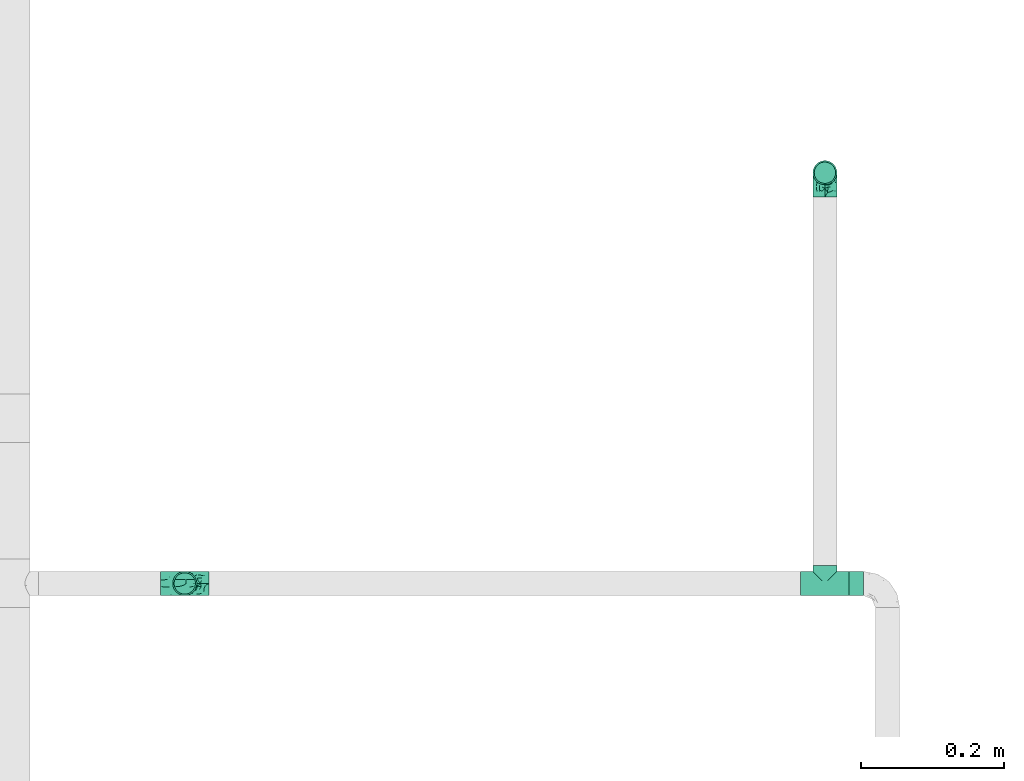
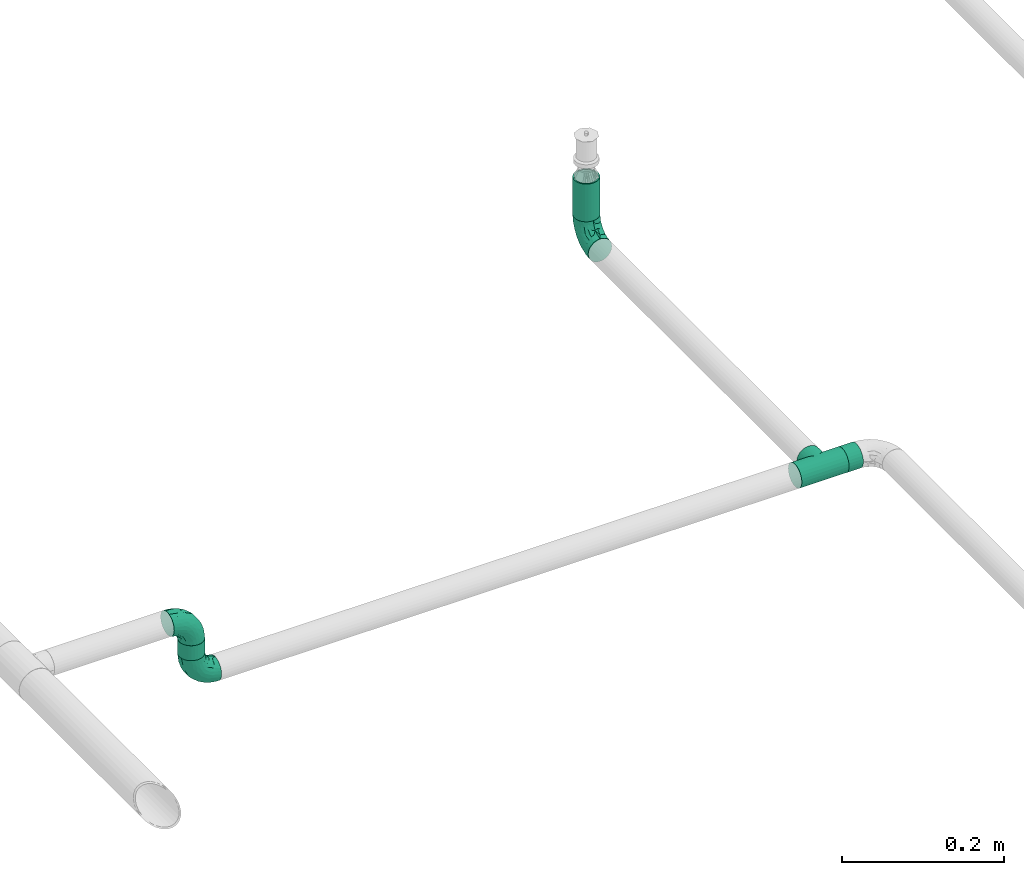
# One storey, part 124 of 157: 4 flow fittings, 3 flow segments.
"""IFC2X3 building model written with IfcOpenShell, lengths in millimetres."""

import ifcopenshell
import ifcopenshell.guid

model = None  # the IFC model being written
_history = None  # IfcOwnerHistory: only IFC2X3 demands one
_inside = {}  # id of a spatial element -> (the spatial element, [elements in it])
_under = {}  # id of a project, library or spatial element -> (it, [spatial elements below it])
_declared = {}  # id of a project -> (the project, [libraries it declares])
_typed = {}  # id of a type object -> (the type object, [elements of that type])
_made_of = {}  # id of a material, layer set ... -> (it, [elements and type objects made of it])


def new_model(schema):
    """Start an empty IFC model of exactly this schema.

    Asked for "IFC4X3", IfcOpenShell would pick the latest addendum, in which some entities
    have other attributes; the version numbers below select the first issue.
    IFC2X3 requires an IfcOwnerHistory on every rooted entity: one is made here for all.
    """
    global model, _history
    if schema == "IFC4X3":
        model = ifcopenshell.file(schema_version=(4, 3, 0, 0))
    else:
        model = ifcopenshell.file(schema=schema)
    _inside.clear()
    _under.clear()
    _declared.clear()
    _typed.clear()
    _made_of.clear()
    _history = None
    if model.schema == "IFC2X3":
        org = make("IfcOrganization", Name="unknown")
        user = make(
            "IfcPersonAndOrganization",
            ThePerson=make("IfcPerson", FamilyName="unknown"),
            TheOrganization=org,
        )
        app = make(
            "IfcApplication",
            ApplicationDeveloper=org,
            Version="unknown",
            ApplicationFullName="unknown",
            ApplicationIdentifier="unknown",
        )
        _history = make(
            "IfcOwnerHistory",
            OwningUser=user,
            OwningApplication=app,
            ChangeAction="ADDED",
            CreationDate=0,
        )
    return model


def make(cls, **values):
    """One entity of the class cls with the attributes given. An attribute that is None is left unset."""
    return model.create_entity(
        cls, **{name: value for name, value in values.items() if value is not None}
    )


def entity(cls, *values):
    """Any entity or typed value of the class cls, its attributes in the order of the schema. None: left unset."""
    e = model.create_entity(cls)
    for i, value in enumerate(values):
        if value is not None:
            e[i] = value
    return e


def rooted(cls, **values):
    """An entity with a GlobalId (a new one), such as an element, a storey or a relation."""
    return make(cls, GlobalId=ifcopenshell.guid.new(), OwnerHistory=_history, **values)


def si_unit(unit_type, name, prefix=None):
    """IfcSIUnit, for example si_unit("LENGTHUNIT", "METRE", prefix="MILLI")."""
    return make("IfcSIUnit", UnitType=unit_type, Prefix=prefix, Name=name)


def converted_unit(unit_type, name, factor, base, dimensions=None, offset=None):
    """IfcConversionBasedUnit, such as the inch: factor (a typed value) times the base unit."""
    return make(
        "IfcConversionBasedUnit"
        if offset is None
        else "IfcConversionBasedUnitWithOffset",
        ConversionOffset=offset,
        Dimensions=None
        if dimensions is None
        else entity("IfcDimensionalExponents", *dimensions),
        UnitType=unit_type,
        Name=name,
        ConversionFactor=make(
            "IfcMeasureWithUnit", ValueComponent=factor, UnitComponent=base
        ),
    )


def derived_unit(unit_type, elements):
    """IfcDerivedUnit: a product of units, each with its exponent."""
    return make(
        "IfcDerivedUnit",
        Elements=[
            make("IfcDerivedUnitElement", Unit=unit, Exponent=power)
            for unit, power in elements
        ],
        UnitType=unit_type,
    )


def assignment(units):
    """IfcUnitAssignment: the units of a project."""
    return None if units is None else make("IfcUnitAssignment", Units=units)


def point(xyz):
    """IfcCartesianPoint."""
    return None if xyz is None else make("IfcCartesianPoint", Coordinates=xyz)


def direction(xyz):
    """IfcDirection."""
    return None if xyz is None else make("IfcDirection", DirectionRatios=xyz)


def frame(location, z_axis=None, x_axis=None):
    """IfcAxis2Placement3D, a coordinate frame: its origin and axes. An axis left out is left unset."""
    return make(
        "IfcAxis2Placement3D",
        Location=point(location),
        Axis=direction(z_axis),
        RefDirection=direction(x_axis),
    )


def frame_2d(location, x_axis=None):
    """IfcAxis2Placement2D, a coordinate frame in the plane: its origin and x axis."""
    return make(
        "IfcAxis2Placement2D", Location=point(location), RefDirection=direction(x_axis)
    )


def origin_with_axes():
    """The frame at (0, 0, 0) with the z axis (0, 0, 1) and the x axis (1, 0, 0) written out."""
    return frame((0.0, 0.0, 0.0), z_axis=(0.0, 0.0, 1.0), x_axis=(1.0, 0.0, 0.0))


def origin_2d_with_axis():
    """The frame at (0, 0) in the plane with the x axis (1, 0) written out."""
    return frame_2d((0.0, 0.0), x_axis=(1.0, 0.0))


def place(relative_to, where):
    """IfcLocalPlacement: puts the frame where relative to a parent placement (None: the world)."""
    return make(
        "IfcLocalPlacement", PlacementRelTo=relative_to, RelativePlacement=where
    )


def context(
    kind, dimensions, precision=None, world=None, true_north=None, identifier=None
):
    """IfcGeometricRepresentationContext, for example the 3D "Model" context."""
    return make(
        "IfcGeometricRepresentationContext",
        ContextIdentifier=identifier,
        ContextType=kind,
        CoordinateSpaceDimension=dimensions,
        Precision=precision,
        WorldCoordinateSystem=world,
        TrueNorth=true_north,
    )


def subcontext(parent, identifier, kind, view, scale=None):
    """IfcGeometricRepresentationSubContext, for example "Body" below "Model"."""
    return make(
        "IfcGeometricRepresentationSubContext",
        ContextIdentifier=identifier,
        ContextType=kind,
        ParentContext=parent,
        TargetScale=scale,
        TargetView=view,
    )


def project(units=None, contexts=None):
    """IfcProject with its units and contexts."""
    return rooted(
        "IfcProject",
        Name="project",
        RepresentationContexts=contexts,
        UnitsInContext=assignment(units),
    )


def spatial(cls, under=None, at=None, **own):
    """A site, building, storey or space (cls), placed at a placement, below another one or the project."""
    s = rooted(cls, ObjectPlacement=at, **own)
    if under is not None:
        _under.setdefault(under.id(), (under, []))[1].append(s)
    return s


def profile(cls, at=None, kind="AREA", **sizes):
    """A parametric profile (cls). Its sizes go by their IFC names, for example OverallWidth=200.0."""
    return make(cls, ProfileType=kind, Position=at, **sizes)


def hollow_circle(**sizes):
    """IfcCircleHollowProfileDef."""
    return profile("IfcCircleHollowProfileDef", **sizes)


def extrude(swept, where, along, depth):
    """IfcExtrudedAreaSolid: the profile swept, set in the frame where, extruded along a direction by depth."""
    return make(
        "IfcExtrudedAreaSolid",
        SweptArea=swept,
        Position=where,
        ExtrudedDirection=direction(along),
        Depth=depth,
    )


def faces_of(points, faces, orient=None, outer=None):
    """IfcFace entities. A face is a list of loops; a loop is a list of indices into points, from 0.

    orient and outer hold one flag for each loop. By default every Orientation is true, the
    first loop of a face is its IfcFaceOuterBound and the others are IfcFaceBound.
    """
    made = []
    for i, loops in enumerate(faces):
        bounds = []
        for j, loop in enumerate(loops):
            is_outer = j == 0 if outer is None else outer[i][j]
            bounds.append(
                make(
                    "IfcFaceOuterBound" if is_outer else "IfcFaceBound",
                    Bound=make("IfcPolyLoop", Polygon=[points[k] for k in loop]),
                    Orientation=True if orient is None else orient[i][j],
                )
            )
        made.append(make("IfcFace", Bounds=bounds))
    return made


def open_shell(faces, orient=None, outer=None):
    """The faces of one IfcOpenShell. surface_model builds it on its shared points."""
    return ("IfcOpenShell", faces, orient, outer)


def surface_model(cls, points, shells):
    """IfcFaceBasedSurfaceModel or IfcShellBasedSurfaceModel (cls): surfaces that need not close."""
    shared = [point(p) for p in points]
    made = [make(c, CfsFaces=faces_of(shared, fs, o, b)) for c, fs, o, b in shells]
    if cls == "IfcFaceBasedSurfaceModel":
        return make(cls, FbsmFaces=made)
    return make(cls, SbsmBoundary=made)


def shape(context_of_items, identifier, shape_type, items):
    """IfcShapeRepresentation: the items that make up one representation, for example the "Body"."""
    return make(
        "IfcShapeRepresentation",
        ContextOfItems=context_of_items,
        RepresentationIdentifier=identifier,
        RepresentationType=shape_type,
        Items=items,
    )


def source(mapping_origin, context_of_items, identifier, shape_type, items):
    """IfcRepresentationMap: a shape defined once, which mapped items show again and again."""
    return make(
        "IfcRepresentationMap",
        MappingOrigin=mapping_origin,
        MappedRepresentation=shape(context_of_items, identifier, shape_type, items),
    )


def transform(
    local_origin,
    x_axis=None,
    y_axis=None,
    z_axis=None,
    scale=None,
    scale2=None,
    scale3=None,
    uniform=True,
):
    """IfcCartesianTransformationOperator3D, or its non-uniform kind. x_axis, y_axis, z_axis: its Axis1, 2, 3."""
    if uniform:
        return make(
            "IfcCartesianTransformationOperator3D",
            Axis1=direction(x_axis),
            Axis2=direction(y_axis),
            LocalOrigin=point(local_origin),
            Scale=scale,
            Axis3=direction(z_axis),
        )
    return make(
        "IfcCartesianTransformationOperator3DnonUniform",
        Axis1=direction(x_axis),
        Axis2=direction(y_axis),
        LocalOrigin=point(local_origin),
        Scale=scale,
        Axis3=direction(z_axis),
        Scale2=scale2,
        Scale3=scale3,
    )


def mapped(mapping_source, mapping_target):
    """IfcMappedItem: shows the shape of a source again, moved by a transform."""
    return make(
        "IfcMappedItem", MappingSource=mapping_source, MappingTarget=mapping_target
    )


def made_of(thing, what):
    """Note that an element or type object is made of a material, layer set ...; save() writes the relation."""
    if what is not None:
        _made_of.setdefault(what.id(), (what, []))[1].append(thing)
    return thing


def type_object(cls, material=None, **own):
    """A type object (cls), such as IfcWallType, which elements share."""
    return made_of(rooted(cls, **own), material)


def element(
    cls,
    number,
    at=None,
    inside=None,
    cuts=None,
    type_object=None,
    material=None,
    context=None,
    identifier="Body",
    shape_type=None,
    held_by="IfcProductDefinitionShape",
    body=None,
    shapes=None,
    **own,
):
    """One element of the class cls, such as IfcWall. Its Tag is "e" and its number.

    at: its placement. inside: the storey or other place that contains it. cuts: it is an
    opening in that element (IfcRelVoidsElement). A single representation is given by context,
    identifier, shape_type and body (its items); several are given by shapes. held_by: the class
    of the entity that holds the representations. save() writes the other relations.
    """
    e = rooted(cls, Tag="e%d" % number, ObjectPlacement=at, **own)
    if body is not None:
        shapes = [shape(context, identifier, shape_type, body)]
    if shapes is not None:
        e.Representation = make(held_by, Representations=shapes)
    if inside is not None:
        _inside.setdefault(inside.id(), (inside, []))[1].append(e)
    if cuts is not None:
        rooted(
            "IfcRelVoidsElement", RelatingBuildingElement=cuts, RelatedOpeningElement=e
        )
    if type_object is not None:
        _typed.setdefault(type_object.id(), (type_object, []))[1].append(e)
    return made_of(e, material)


def aggregate(whole, parts):
    """IfcRelAggregates: a whole, such as a stair, and the parts it consists of."""
    return rooted("IfcRelAggregates", RelatingObject=whole, RelatedObjects=parts)


def save(model, path):
    """Write the relations noted so far, then the file.

    IfcRelAggregates (storeys below a building ...), IfcRelContainedInSpatialStructure (elements
    in a storey), IfcRelDefinesByType, IfcRelAssociatesMaterial and IfcRelDeclares: one each for
    every whole, place, type object, material and project.
    """
    for whole, parts in _under.values():
        aggregate(whole, parts)
    for where, things in _inside.values():
        rooted(
            "IfcRelContainedInSpatialStructure",
            RelatedElements=things,
            RelatingStructure=where,
        )
    for kind, things in _typed.values():
        rooted("IfcRelDefinesByType", RelatedObjects=things, RelatingType=kind)
    for what, things in _made_of.values():
        rooted("IfcRelAssociatesMaterial", RelatedObjects=things, RelatingMaterial=what)
    for by, libraries in _declared.values():
        rooted("IfcRelDeclares", RelatingContext=by, RelatedDefinitions=libraries)
    model.write(path)


model = new_model("IFC2X3")

# Units and contexts
model_context = context("Model", 3, precision=0.01, world=frame((0.0, 4.29681676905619e-09, 0.0)), true_north=direction((4.01073788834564e-13, 1.0)))
plan_context = context("Plan", 3, precision=0.01, world=frame((0.0, 4.29681676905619e-09, 0.0)), true_north=direction((4.01073788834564e-13, 1.0)))
body_context = subcontext(model_context, "Body", "Model", "MODEL_VIEW")
ifc_project = project(units=[converted_unit("PLANEANGLEUNIT", "DEGREE", entity("IfcPositiveLengthMeasure", 0.0174532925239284), si_unit("PLANEANGLEUNIT", "RADIAN"), dimensions=[0, 0, 0, 0, 0, 0, 0]), si_unit("AREAUNIT", "SQUARE_METRE"), si_unit("LENGTHUNIT", "METRE", prefix="MILLI"), si_unit("MASSUNIT", "GRAM", prefix="KILO"), si_unit("POWERUNIT", "WATT"), si_unit("PRESSUREUNIT", "PASCAL"), si_unit("FORCEUNIT", "NEWTON", prefix="KILO"), si_unit("ELECTRICCURRENTUNIT", "AMPERE"), si_unit("THERMODYNAMICTEMPERATUREUNIT", "DEGREE_CELSIUS"), si_unit("TIMEUNIT", "SECOND"), si_unit("VOLUMEUNIT", "CUBIC_METRE"), derived_unit("LINEARVELOCITYUNIT", [(si_unit("LENGTHUNIT", "METRE"), 1), (si_unit("TIMEUNIT", "SECOND"), -1)]), derived_unit("VOLUMETRICFLOWRATEUNIT", [(si_unit("VOLUMEUNIT", "CUBIC_METRE"), 1), (si_unit("TIMEUNIT", "SECOND"), -1)]), derived_unit("THERMALTRANSMITTANCEUNIT", [(si_unit("POWERUNIT", "WATT"), 1), (si_unit("THERMODYNAMICTEMPERATUREUNIT", "KELVIN"), -1), (si_unit("AREAUNIT", "SQUARE_METRE"), -1)])], contexts=[model_context, plan_context])

# Site, building, storey
site_placement = place(None, frame((0.0, -4.29681676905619e-09, 0.0), z_axis=(0.0, 0.0, 1.0), x_axis=(1.0, 0.0, 0.0)))
site = spatial("IfcSite", under=ifc_project, at=site_placement, CompositionType="ELEMENT")
building_placement = place(site_placement, frame((0.0, 4.29681676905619e-09, 0.0), z_axis=(0.0, 0.0, 1.0), x_axis=(1.0, 0.0, 0.0)))
building = spatial("IfcBuilding", under=site, at=building_placement, Name="mc-building", CompositionType="ELEMENT")
storey_placement = place(building_placement, frame((0.0, 0.0, 204000.0), z_axis=(0.0, 0.0, 1.0), x_axis=(1.0, 0.0, 0.0)))
storey = spatial("IfcBuildingStorey", under=building, at=storey_placement, Name="Nivå D", CompositionType="ELEMENT", Elevation=204000.0)

# Flow fittings
pipe_fitting_type_1 = type_object("IfcPipeFittingType", Name="magi_pipe_fe_tee_centric_90_NOR", PredefinedType="JUNCTION")
shared_shape_1 = source(origin_with_axes(), body_context, "Body", "SurfaceModel", [
    surface_model("IfcShellBasedSurfaceModel", [(-33.8, 4.37404, -16.32415), (-33.8, 0.0, -16.9), (-33.8, 16.32415, -4.37404), (-33.8, 8.45, -14.63583), (-33.8, 11.9501, -11.9501), (-33.8, 14.63583, -8.45), (-33.8, -16.9, 0.0), (-33.8, -11.9501, -11.9501), (-33.8, -14.63583, -8.45), (-33.8, -8.45, -14.63583), (-33.8, -4.37404, -16.32415), (-33.8, -16.32415, -4.37404), (-33.8, 14.63583, 8.45), (-33.8, 16.32415, 4.37404), (-33.8, -8.45, 14.63583), (-33.8, 8.45, 14.63583), (-33.8, 11.9501, 11.9501), (-33.8, 4.37404, 16.32415), (-33.8, 0.0, 16.9), (-33.8, -11.9501, 11.9501), (-33.8, -14.63583, 8.45), (-33.8, -16.32415, 4.37404), (-33.8, -4.37404, 16.32415), (-33.8, 16.9, 0.0), (33.8, 4.37404, -16.32415), (33.8, -16.9, 0.0), (33.8, 0.0, -16.9), (33.8, 14.63583, -8.45), (33.8, 8.45, -14.63583), (33.8, 16.32415, -4.37404), (33.8, 11.9501, -11.9501), (33.8, -16.32415, 4.37404), (33.8, -8.45, -14.63583), (33.8, -4.37404, -16.32415), (33.8, -11.9501, -11.9501), (33.8, -14.63583, -8.45), (33.8, -16.32415, -4.37404), (33.8, 16.32415, 4.37404), (33.8, 8.45, 14.63583), (33.8, 14.63583, 8.45), (33.8, 11.9501, 11.9501), (33.8, -8.45, 14.63583), (33.8, 4.37404, 16.32415), (33.8, -14.63583, 8.45), (33.8, -11.9501, 11.9501), (33.8, 0.0, 16.9), (33.8, -4.37404, 16.32415), (33.8, 16.9, 0.0), (16.28698, -16.28698, 4.51047), (16.9, -16.9, 0.0), (14.62704, -14.62704, 8.4652), (9.47213, -9.47213, 13.99602), (12.26343, -12.26343, 11.62834), (-16.9, -16.9, 0.0), (-16.28698, -16.28698, 4.51047), (-14.62704, -14.62704, 8.4652), (-12.26343, -12.26343, 11.62834), (-9.47213, -9.47213, 13.99602), (-6.42894, -6.42894, 15.62942), (6.42894, -6.42894, 15.62942), (3.24522, -3.24522, 16.58549), (0.0, 0.0, 16.9), (-3.24522, -3.24522, 16.58549), (3.24522, -3.24522, -16.58549), (0.0, 0.0, -16.9), (-3.24522, -3.24522, -16.58549), (-6.42894, -6.42894, -15.62942), (6.42894, -6.42894, -15.62942), (9.47213, -9.47213, -13.99602), (12.26343, -12.26343, -11.62834), (14.62704, -14.62704, -8.4652), (16.28698, -16.28698, -4.51047), (-9.47213, -9.47213, -13.99602), (-12.26343, -12.26343, -11.62834), (-16.28698, -16.28698, -4.51047), (-14.62704, -14.62704, -8.4652), (4.37404, -25.35, -16.32415), (-16.9, -25.35, 0.0), (0.0, -25.35, -16.9), (14.63583, -25.35, -8.45), (8.45, -25.35, -14.63583), (16.32415, -25.35, -4.37404), (11.9501, -25.35, -11.9501), (-11.9501, -25.35, -11.9501), (-8.45, -25.35, -14.63583), (-4.37404, -25.35, -16.32415), (-14.63583, -25.35, -8.45), (-16.32415, -25.35, -4.37404), (16.9, -25.35, 0.0), (8.45, -25.35, 14.63583), (16.32415, -25.35, 4.37404), (14.63583, -25.35, 8.45), (-8.45, -25.35, 14.63583), (11.9501, -25.35, 11.9501), (4.37404, -25.35, 16.32415), (-16.32415, -25.35, 4.37404), (-11.9501, -25.35, 11.9501), (-14.63583, -25.35, 8.45), (0.0, -25.35, 16.9), (-4.37404, -25.35, 16.32415)], [open_shell([[[0, 1, 2]], [[3, 0, 4]], [[0, 2, 5]], [[4, 0, 5]], [[6, 2, 1]], [[7, 8, 9]], [[1, 10, 9]], [[11, 6, 8]], [[1, 9, 8]], [[1, 8, 6]], [[6, 12, 2]], [[12, 13, 2]], [[14, 12, 6]], [[12, 14, 15]], [[16, 12, 15]], [[17, 15, 18]], [[19, 14, 20]], [[21, 20, 14]], [[22, 18, 14]], [[14, 6, 21]], [[14, 18, 15]], [[23, 2, 13]], [[24, 25, 26]], [[27, 24, 28]], [[27, 29, 24]], [[27, 28, 30]], [[31, 25, 24]], [[26, 32, 33]], [[26, 34, 32]], [[35, 25, 36]], [[35, 34, 26]], [[25, 35, 26]], [[24, 29, 31]], [[29, 37, 38]], [[38, 37, 39]], [[38, 31, 29]], [[38, 39, 40]], [[41, 38, 42]], [[43, 41, 44]], [[41, 43, 31]], [[41, 45, 46]], [[41, 31, 38]], [[42, 45, 41]], [[29, 47, 37]], [[31, 43, 48]], [[25, 31, 49]], [[49, 31, 48]], [[43, 50, 48]], [[44, 41, 51]], [[50, 43, 52]], [[51, 52, 44]], [[52, 43, 44]], [[53, 54, 21]], [[53, 21, 6]], [[21, 54, 20]], [[54, 55, 20]], [[56, 57, 19]], [[19, 20, 56]], [[19, 57, 14]], [[56, 20, 55]], [[14, 57, 58]], [[51, 41, 59]], [[60, 45, 61]], [[59, 46, 60]], [[46, 59, 41]], [[60, 46, 45]], [[61, 45, 42]], [[39, 37, 13]], [[16, 38, 40]], [[12, 40, 39]], [[42, 38, 15]], [[23, 37, 47]], [[62, 61, 18]], [[62, 22, 58]], [[22, 62, 18]], [[58, 22, 14]], [[61, 17, 18]], [[42, 17, 61]], [[15, 17, 42]], [[15, 38, 16]], [[12, 16, 40]], [[13, 12, 39]], [[37, 23, 13]], [[5, 27, 30]], [[23, 47, 29]], [[30, 28, 3]], [[27, 2, 29]], [[26, 33, 63]], [[26, 64, 24]], [[64, 26, 63]], [[28, 24, 0]], [[64, 0, 24]], [[4, 30, 3]], [[2, 27, 5]], [[5, 30, 4]], [[2, 23, 29]], [[65, 66, 10]], [[1, 0, 64]], [[1, 65, 10]], [[66, 9, 10]], [[0, 3, 28]], [[1, 64, 65]], [[63, 33, 67]], [[32, 34, 68]], [[69, 68, 34]], [[35, 70, 69]], [[69, 34, 35]], [[32, 68, 67]], [[36, 25, 49]], [[36, 71, 35]], [[71, 36, 49]], [[35, 71, 70]], [[72, 9, 66]], [[72, 7, 9]], [[7, 72, 73]], [[7, 73, 8]], [[74, 53, 11]], [[75, 74, 8]], [[74, 11, 8]], [[11, 53, 6]], [[75, 8, 73]], [[32, 67, 33]], [[76, 77, 78]], [[79, 76, 80]], [[79, 81, 76]], [[79, 80, 82]], [[77, 76, 81]], [[78, 83, 84]], [[84, 85, 78]], [[86, 77, 87]], [[83, 78, 86]], [[77, 86, 78]], [[81, 88, 77]], [[89, 88, 90]], [[89, 90, 91]], [[92, 77, 89]], [[89, 91, 93]], [[92, 89, 94]], [[95, 96, 97]], [[96, 95, 92]], [[92, 98, 99]], [[95, 77, 92]], [[94, 98, 92]], [[89, 77, 88]], [[77, 95, 53]], [[54, 53, 95]], [[97, 96, 56]], [[96, 92, 57]], [[95, 97, 54]], [[58, 92, 99]], [[55, 54, 97]], [[56, 55, 97]], [[58, 57, 92]], [[98, 61, 62]], [[58, 99, 62]], [[56, 96, 57]], [[62, 99, 98]], [[94, 60, 98]], [[89, 59, 94]], [[91, 90, 48]], [[52, 93, 91]], [[93, 51, 89]], [[49, 90, 88]], [[59, 60, 94]], [[51, 59, 89]], [[49, 48, 90]], [[50, 52, 91]], [[48, 50, 91]], [[51, 93, 52]], [[98, 60, 61]], [[88, 81, 49]], [[71, 49, 81]], [[79, 82, 69]], [[82, 80, 68]], [[81, 79, 71]], [[67, 80, 76]], [[70, 71, 79]], [[69, 70, 79]], [[67, 68, 80]], [[78, 64, 63]], [[67, 76, 63]], [[69, 82, 68]], [[63, 76, 78]], [[85, 65, 78]], [[84, 66, 85]], [[86, 87, 74]], [[86, 73, 83]], [[72, 84, 83]], [[53, 87, 77]], [[66, 65, 85]], [[72, 66, 84]], [[53, 74, 87]], [[75, 73, 86]], [[74, 75, 86]], [[72, 83, 73]], [[78, 65, 64]]])]),
])
flow_fitting_placement = place(storey_placement, frame((530524.76823, 416029.5488, 2600.0), z_axis=(0.0, 0.0, -1.0), x_axis=(1.0, 0.0, 0.0)))
element("IfcFlowFitting", 1, at=flow_fitting_placement, inside=storey, type_object=pipe_fitting_type_1, Name="magi_pipe_fe_tee_centric_90_NOR", context=body_context, shape_type="MappedRepresentation", body=[
    mapped(shared_shape_1, transform((0.0, 0.0, 0.0), scale=1.0)),
])
pipe_fitting_type_2 = type_object("IfcPipeFittingType", Name="magi_pipe_fe_elbow_short_001", PredefinedType="BEND")
shared_shape_2 = source(origin_with_axes(), body_context, "Body", "SurfaceModel", [
    surface_model("IfcShellBasedSurfaceModel", [(-33.8, 8.45, -14.63583), (-33.8, 4.37404, -16.32415), (-33.8, 11.9501, -11.9501), (-33.8, -11.9501, -11.9501), (-33.8, -14.63583, -8.45), (-33.8, -8.45, -14.63583), (-33.8, 0.0, -16.9), (-33.8, -4.37404, -16.32415), (-33.8, -4.37404, 16.32415), (-33.8, 0.0, 16.9), (-33.8, -8.45, 14.63583), (-33.8, 16.32415, -4.37404), (-33.8, 14.63583, -8.45), (-33.8, -16.32415, -4.37404), (-33.8, -16.9, 0.0), (-33.8, -16.32415, 4.37404), (-33.8, 11.9501, 11.9501), (-33.8, 14.63583, 8.45), (-33.8, 16.32415, 4.37404), (-33.8, 4.37404, 16.32415), (-33.8, 8.45, 14.63583), (-33.8, -14.63583, 8.45), (-33.8, -11.9501, 11.9501), (-33.8, 16.9, 0.0), (-11.9501, 33.8, -11.9501), (0.0, 33.8, -16.9), (-4.37404, 33.8, -16.32415), (-8.45, 33.8, -14.63583), (-14.63583, 33.8, -8.45), (-16.32415, 33.8, -4.37404), (14.63583, 33.8, -8.45), (8.45, 33.8, 14.63583), (16.32415, 33.8, -4.37404), (8.45, 33.8, -14.63583), (11.9501, 33.8, -11.9501), (4.37404, 33.8, -16.32415), (16.32415, 33.8, 4.37404), (16.9, 33.8, 0.0), (-11.9501, 33.8, 11.9501), (-16.32415, 33.8, 4.37404), (-14.63583, 33.8, 8.45), (-8.45, 33.8, 14.63583), (-4.37404, 33.8, 16.32415), (11.9501, 33.8, 11.9501), (14.63583, 33.8, 8.45), (0.0, 33.8, 16.9), (4.37404, 33.8, 16.32415), (-16.9, 33.8, 0.0), (-24.79389, -13.12945, 9.48721), (-22.19287, -9.75018, 12.59315), (-24.09897, -14.97035, 0.0), (-14.93934, -10.76256, 8.5297), (-22.46095, -14.75051, 5.27077), (14.75051, 22.46094, 5.27077), (11.9251, 13.23888, 4.33236), (13.04069, 14.39795, 0.0), (7.71387, 13.68847, 11.55891), (9.75018, 22.19287, 12.59315), (4.10169, 13.0571, 14.04018), (-24.84007, -6.39063, 15.2048), (-25.81779, -2.23879, 16.61097), (-23.66549, 2.59054, 16.87119), (-26.50418, 14.06512, 11.08152), (-24.21253, 17.66365, 7.72657), (-29.58514, 15.86957, 7.00283), (-6.17382, -7.5455, 0.0), (-13.23888, -11.9251, 4.33236), (-14.39795, -13.04069, 0.0), (-17.81434, 18.87373, 11.97104), (-6.30846, 29.15138, 15.82987), (-2.31622, 25.28002, 16.85849), (-29.23923, 10.23435, 13.77053), (-1.45439, -2.85688, 7.61475), (-0.28326, 0.34872, 10.09509), (-5.74484, -4.04709, 10.4122), (-4.41137, 11.31918, 16.59407), (-8.39727, 3.10034, 15.7812), (-1.72649, 9.1306, 15.53089), (-17.39909, 24.75344, 7.64977), (-26.19233, 20.0512, 0.0), (-28.14518, 17.29657, 4.25857), (-26.05147, 6.6281, 15.96447), (-5.87354, 16.61944, 16.86968), (-12.51807, 12.51807, 16.48937), (-10.06312, 7.38516, 16.81295), (-3.01882, 3.01882, 13.81718), (-13.0571, -4.10169, 14.04018), (-16.82553, -0.15166, 16.38038), (10.76256, 14.93934, 8.5297), (13.12945, 24.79389, 9.48721), (6.39063, 24.84007, 15.2048), (2.23879, 25.81779, 16.61097), (-13.68847, -7.71387, 11.55891), (14.97035, 24.09897, 0.0), (-7.30894, 22.89991, 16.09489), (-10.67958, 26.17414, 14.008), (-12.78295, 18.26924, 15.06066), (-13.88562, 22.45231, 12.93244), (-18.04944, 15.16501, 14.04434), (-23.11658, 20.08178, 4.02986), (-21.84989, 21.84989, 0.0), (-18.55817, 25.48277, 3.93065), (-13.95142, 26.94732, 11.03289), (-18.57098, 7.23906, 16.59756), (-16.58335, 4.14122, 16.89279), (-17.96666, 11.46709, 15.63151), (-9.84453, 17.54304, 16.18938), (0.15166, 16.82553, 16.38038), (-23.27207, 11.47201, 14.23154), (3.84842, 5.86994, 10.70473), (-8.0212, -7.54413, 7.93275), (1.00345, -2.19508, 4.57414), (5.13203, 3.01004, 5.90201), (5.24161, 1.7543, 2.53265), (8.70457, 7.04947, 3.99182), (-20.0512, 26.19233, 0.0), (8.4852, 8.76699, 7.09296), (-4.55488, -6.72064, 4.90681), (2.05031, -2.05031, 0.0), (7.5455, 6.17382, 0.0), (-26.75399, 2.1369, -16.845), (-14.61995, 24.73803, -11.27736), (-28.45274, -13.45335, -9.81895), (-26.00469, 6.63555, -15.96645), (-23.06726, 20.04573, -4.26202), (-13.80647, -4.26506, -14.17873), (-14.67501, -0.21081, -16.07388), (-6.7902, -0.2828, -13.8478), (-24.53586, 11.08096, -14.13417), (-26.72048, 14.00837, -11.05776), (10.0967, 24.44989, -12.75976), (5.83237, 21.40218, -15.03047), (6.66249, 28.54238, -15.38093), (-20.38182, 15.48705, -12.74596), (12.53268, 21.23441, -9.15363), (12.54494, 15.67504, -5.54878), (9.7522, 12.89279, -8.66343), (-15.65186, 19.64213, -13.01327), (-12.03528, 20.66498, -14.67665), (-15.61907, 15.61906, -14.83879), (-25.56551, -15.26206, 0.0), (-24.65452, -15.12934, -5.50955), (13.45335, 28.45274, -9.81895), (15.12934, 24.65452, -5.50955), (-7.35442, -8.31014, -5.65563), (-15.67504, -12.54494, -5.54878), (-24.44989, -10.0967, -12.75976), (0.16522, 0.41303, -9.71728), (-5.70658, -5.33066, -8.89288), (-5.13869, -2.37198, -11.53565), (-21.23441, -12.53268, -9.15363), (0.71146, 7.93863, -14.09382), (0.21081, 14.67501, -16.07388), (3.49291, 14.42772, -14.76381), (-24.89911, -2.13088, -16.591), (-28.54238, -6.66249, -15.38093), (-18.44386, -7.71663, -13.26957), (2.13088, 24.89911, -16.591), (-28.64342, 17.44413, -2.89318), (1.70017, -1.28722, -5.09504), (-16.57067, 26.81947, -7.36596), (-17.69055, 27.4263, -3.76405), (-12.89279, -9.7522, -8.66343), (-5.96611, 5.96611, -15.95814), (-20.53709, 20.09345, -8.28985), (-2.1369, 26.75399, -16.845), (-6.89872, 24.58781, -16.02578), (-10.60739, 26.53157, -13.98044), (-21.40218, -5.83237, -15.03047), (2.93192, 5.89627, -11.55917), (6.89393, 12.61842, -11.82233), (5.58056, 5.95325, -8.79455), (-3.99512, 18.61798, -16.89635), (8.31014, 7.35442, -5.65563), (-9.1383, 9.86148, -16.89041), (-9.99983, 16.02119, -16.39699), (-16.68576, 9.78031, -16.34199), (-27.01915, 16.61158, -7.12979), (15.26206, 25.56551, 0.0), (-18.61798, 3.99512, -16.89635), (-19.37495, 27.82495, 0.0), (-12.61842, -6.89393, -11.82233), (-18.84705, 19.14018, -10.96545)], [open_shell([[[0, 1, 2]], [[3, 4, 5]], [[6, 7, 5]], [[8, 9, 10]], [[1, 6, 2]], [[11, 12, 2]], [[4, 2, 6]], [[2, 13, 10]], [[5, 4, 6]], [[2, 4, 13]], [[14, 15, 13]], [[11, 2, 16]], [[11, 17, 18]], [[11, 16, 17]], [[19, 20, 16]], [[16, 2, 10]], [[19, 16, 10]], [[21, 22, 15]], [[22, 13, 15]], [[22, 10, 13]], [[10, 9, 19]], [[11, 18, 23]], [[24, 25, 26]], [[24, 26, 27]], [[24, 28, 29]], [[25, 24, 30]], [[31, 32, 24]], [[33, 30, 34]], [[33, 35, 25]], [[25, 30, 33]], [[32, 30, 24]], [[32, 36, 37]], [[38, 24, 29]], [[39, 40, 29]], [[40, 38, 29]], [[38, 41, 42]], [[38, 31, 24]], [[31, 38, 42]], [[36, 43, 44]], [[36, 32, 43]], [[31, 45, 46]], [[32, 31, 43]], [[42, 45, 31]], [[39, 29, 47]], [[22, 48, 49]], [[15, 14, 50]], [[51, 48, 52]], [[53, 54, 55]], [[48, 22, 21]], [[15, 52, 21]], [[56, 57, 58]], [[49, 10, 22]], [[49, 59, 10]], [[9, 60, 61]], [[62, 63, 64]], [[65, 66, 67]], [[57, 43, 31]], [[62, 68, 63]], [[42, 69, 70]], [[20, 71, 16]], [[8, 60, 9]], [[72, 73, 74]], [[75, 76, 77]], [[16, 62, 17]], [[40, 39, 78]], [[79, 23, 80]], [[64, 18, 17]], [[9, 61, 19]], [[19, 81, 20]], [[82, 83, 84]], [[74, 85, 86]], [[59, 86, 87]], [[88, 89, 57]], [[90, 31, 46]], [[44, 53, 36]], [[46, 45, 91]], [[54, 53, 88]], [[44, 89, 53]], [[92, 86, 49]], [[89, 44, 43]], [[10, 59, 8]], [[53, 55, 93]], [[93, 36, 53]], [[66, 52, 67]], [[94, 82, 70]], [[95, 96, 94]], [[97, 98, 96]], [[79, 99, 100]], [[41, 38, 95]], [[101, 100, 99]], [[68, 78, 63]], [[42, 41, 69]], [[23, 18, 80]], [[95, 94, 69]], [[78, 101, 99]], [[38, 102, 95]], [[70, 45, 42]], [[97, 95, 102]], [[15, 50, 52]], [[90, 57, 31]], [[57, 90, 58]], [[81, 19, 61]], [[103, 104, 84]], [[105, 81, 103]], [[38, 40, 102]], [[106, 96, 83]], [[94, 106, 82]], [[91, 70, 107]], [[71, 62, 16]], [[62, 108, 98]], [[86, 59, 49]], [[67, 52, 50]], [[60, 59, 87]], [[92, 49, 51]], [[86, 85, 76]], [[91, 90, 46]], [[37, 36, 93]], [[107, 77, 58]], [[107, 58, 90]], [[58, 85, 109]], [[110, 74, 92]], [[72, 74, 110]], [[66, 51, 52]], [[72, 111, 112]], [[113, 114, 112]], [[56, 88, 57]], [[52, 48, 21]], [[49, 48, 51]], [[57, 89, 43]], [[53, 89, 88]], [[103, 81, 61]], [[71, 81, 108]], [[18, 64, 80]], [[63, 78, 99]], [[47, 115, 101]], [[101, 115, 100]], [[40, 78, 102]], [[68, 102, 78]], [[97, 96, 95]], [[105, 98, 108]], [[103, 84, 83]], [[107, 70, 82]], [[76, 84, 87]], [[82, 84, 75]], [[70, 91, 45]], [[90, 91, 107]], [[59, 60, 8]], [[61, 60, 87]], [[73, 85, 74]], [[109, 112, 116]], [[103, 61, 104]], [[105, 103, 83]], [[96, 105, 83]], [[81, 105, 108]], [[96, 98, 105]], [[62, 98, 68]], [[61, 87, 104]], [[87, 84, 104]], [[86, 76, 87]], [[77, 76, 85]], [[58, 77, 85]], [[75, 77, 107]], [[82, 75, 107]], [[76, 75, 84]], [[81, 71, 20]], [[62, 71, 108]], [[95, 69, 41]], [[70, 69, 94]], [[62, 64, 17]], [[80, 63, 99]], [[63, 80, 64]], [[80, 99, 79]], [[66, 65, 117]], [[110, 66, 117]], [[112, 114, 116]], [[118, 117, 65]], [[110, 92, 51]], [[112, 111, 113]], [[119, 55, 54]], [[74, 86, 92]], [[58, 109, 56]], [[116, 56, 109]], [[66, 110, 51]], [[72, 110, 117]], [[111, 72, 117]], [[73, 112, 109]], [[117, 118, 111]], [[113, 111, 118]], [[118, 119, 113]], [[114, 119, 54]], [[119, 114, 113]], [[116, 54, 88]], [[54, 116, 114]], [[116, 88, 56]], [[112, 73, 72]], [[85, 73, 109]], [[78, 39, 101]], [[47, 101, 39]], [[102, 68, 97]], [[97, 68, 98]], [[82, 106, 83]], [[94, 96, 106]], [[1, 120, 6]], [[28, 24, 121]], [[3, 122, 4]], [[0, 123, 1]], [[100, 124, 79]], [[125, 126, 127]], [[128, 2, 129]], [[130, 131, 132]], [[128, 129, 133]], [[134, 135, 136]], [[137, 138, 139]], [[128, 0, 2]], [[67, 140, 141]], [[134, 142, 143]], [[141, 13, 4]], [[144, 65, 145]], [[146, 3, 5]], [[147, 148, 149]], [[145, 141, 150]], [[151, 152, 153]], [[154, 7, 6]], [[5, 155, 146]], [[150, 146, 156]], [[155, 5, 7]], [[143, 135, 134]], [[35, 157, 25]], [[23, 79, 158]], [[148, 159, 144]], [[160, 161, 29]], [[145, 162, 144]], [[163, 152, 151]], [[29, 28, 160]], [[121, 164, 160]], [[33, 34, 130]], [[25, 165, 26]], [[26, 165, 166]], [[142, 34, 30]], [[24, 27, 167]], [[124, 161, 164]], [[157, 35, 132]], [[155, 154, 168]], [[123, 0, 128]], [[169, 170, 171]], [[172, 157, 152]], [[26, 166, 27]], [[132, 35, 33]], [[142, 130, 34]], [[168, 154, 126]], [[136, 135, 173]], [[133, 137, 139]], [[2, 12, 129]], [[170, 131, 130]], [[30, 32, 143]], [[172, 174, 175]], [[176, 123, 128]], [[158, 177, 11]], [[135, 55, 119]], [[167, 27, 166]], [[175, 166, 172]], [[137, 167, 138]], [[122, 141, 4]], [[140, 14, 13]], [[32, 37, 178]], [[170, 130, 134]], [[152, 157, 131]], [[165, 157, 172]], [[153, 170, 151]], [[152, 163, 174]], [[168, 125, 156]], [[122, 146, 150]], [[120, 154, 6]], [[179, 174, 126]], [[179, 126, 154]], [[126, 163, 127]], [[162, 145, 150]], [[140, 13, 141]], [[32, 178, 143]], [[55, 143, 178]], [[177, 129, 12]], [[128, 133, 139]], [[176, 128, 139]], [[120, 123, 179]], [[121, 160, 28]], [[161, 100, 180]], [[166, 175, 138]], [[121, 24, 167]], [[161, 47, 29]], [[79, 124, 158]], [[124, 164, 177]], [[161, 124, 100]], [[136, 171, 170]], [[127, 163, 151]], [[147, 171, 159]], [[148, 144, 162]], [[127, 151, 169]], [[127, 181, 125]], [[129, 177, 164]], [[12, 11, 177]], [[159, 65, 144]], [[67, 141, 145]], [[143, 55, 135]], [[135, 119, 173]], [[123, 120, 1]], [[154, 120, 179]], [[157, 165, 25]], [[166, 165, 172]], [[172, 152, 174]], [[176, 139, 175]], [[126, 174, 163]], [[176, 174, 179]], [[174, 176, 175]], [[123, 176, 179]], [[150, 181, 162]], [[127, 149, 181]], [[181, 148, 162]], [[159, 148, 147]], [[171, 136, 173]], [[170, 134, 136]], [[159, 171, 173]], [[171, 147, 169]], [[169, 147, 149]], [[151, 170, 169]], [[164, 182, 129]], [[182, 121, 137]], [[181, 149, 148]], [[169, 149, 127]], [[182, 137, 133]], [[167, 137, 121]], [[166, 138, 167]], [[175, 139, 138]], [[129, 182, 133]], [[121, 182, 164]], [[161, 160, 164]], [[47, 161, 180]], [[177, 158, 124]], [[23, 158, 11]], [[130, 132, 33]], [[157, 132, 131]], [[143, 142, 30]], [[130, 142, 134]], [[154, 155, 7]], [[146, 155, 168]], [[146, 122, 3]], [[141, 122, 150]], [[152, 131, 153]], [[159, 119, 118]], [[67, 145, 65]], [[170, 153, 131]], [[119, 159, 173]], [[159, 118, 65]], [[156, 125, 181]], [[126, 125, 168]], [[150, 156, 181]], [[168, 156, 146]]])]),
])
for number, where, z_axis, x_axis, name in (
    (2, (530524.76823, 416603.03219, 2600.0), (-1.0, 0.0, 0.0), (0.0, 0.0, -1.0), "magi_pipe_fe_elbow_short_001"),
    (3, (529630.96823, 416029.5488, 2600.0), (0.0, 1.0, 0.0), (-1.0, 0.0, 0.0), "magi_pipe_fe_elbow_short_001"),
    (4, (529630.96823, 416029.5488, 2690.0), (0.0, -1.0, 0.0), (0.0, 0.0, 1.0), "magi_pipe_fe_elbow_short_001"),
):
    element("IfcFlowFitting", number, at=place(storey_placement, frame(where, z_axis=z_axis, x_axis=x_axis)), inside=storey, type_object=pipe_fitting_type_2, Name=name, context=body_context, shape_type="MappedRepresentation", body=[
        mapped(shared_shape_2, transform((0.0, 0.0, 0.0), scale=1.0)),
    ])

# Flow segments
pipe_segment_type = type_object("IfcPipeSegmentType", Name="Stålrør normaltykke", PredefinedType="RIGIDSEGMENT")
shared_shape_3 = source(origin_with_axes(), body_context, "Body", "SweptSolid", [
    extrude(hollow_circle(Radius=16.9, WallThickness=2.0, at=origin_2d_with_axis()), frame((0.0, 0.0, 0.0), z_axis=(1.0, 0.0, 0.0), x_axis=(0.0, 1.0, 0.0)), (0.0, 0.0, 1.0), 20.3),
])
flow_segment_1_placement = place(storey_placement, frame((530578.55289, 416029.5488, 2600.0), z_axis=(0.0, 0.0, 1.0), x_axis=(-1.0, 0.0, 0.0)))
element("IfcFlowSegment", 5, at=flow_segment_1_placement, inside=storey, type_object=pipe_segment_type, Name="Stålrør normaltykke", context=body_context, shape_type="MappedRepresentation", body=[
    mapped(shared_shape_3, transform((0.0, 0.0, 0.0), scale=1.0)),
])
shared_shape_4 = source(origin_with_axes(), body_context, "Body", "SweptSolid", [
    extrude(hollow_circle(Radius=16.9, WallThickness=2.0, at=origin_2d_with_axis()), frame((0.0, 0.0, 0.0), z_axis=(1.0, 0.0, 0.0), x_axis=(0.0, 1.0, 0.0)), (0.0, 0.0, 1.0), 22.4),
])
flow_segment_2_placement = place(storey_placement, frame((529630.96823, 416029.5488, 2633.79999999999), z_axis=(1.0, 0.0, 0.0), x_axis=(0.0, 0.0, 1.0)))
element("IfcFlowSegment", 6, at=flow_segment_2_placement, inside=storey, type_object=pipe_segment_type, Name="Stålrør normaltykke", context=body_context, shape_type="MappedRepresentation", body=[
    mapped(shared_shape_4, transform((0.0, 0.0, 0.0), scale=1.0)),
])
shared_shape_5 = source(origin_with_axes(), body_context, "Body", "SweptSolid", [
    extrude(hollow_circle(Radius=16.9, WallThickness=2.0, at=origin_2d_with_axis()), frame((0.0, 0.0, 0.0), z_axis=(1.0, 0.0, 0.0), x_axis=(0.0, 1.0, 0.0)), (0.0, 0.0, 1.0), 56.8),
])
flow_segment_3_placement = place(storey_placement, frame((530524.76823, 416603.03219, 2690.64799999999), z_axis=(0.0, -1.0, 0.0), x_axis=(0.0, 0.0, -1.0)))
element("IfcFlowSegment", 7, at=flow_segment_3_placement, inside=storey, type_object=pipe_segment_type, Name="Stålrør normaltykke", context=body_context, shape_type="MappedRepresentation", body=[
    mapped(shared_shape_5, transform((0.0, 0.0, 0.0), scale=1.0)),
])

save(model, "model.ifc")
